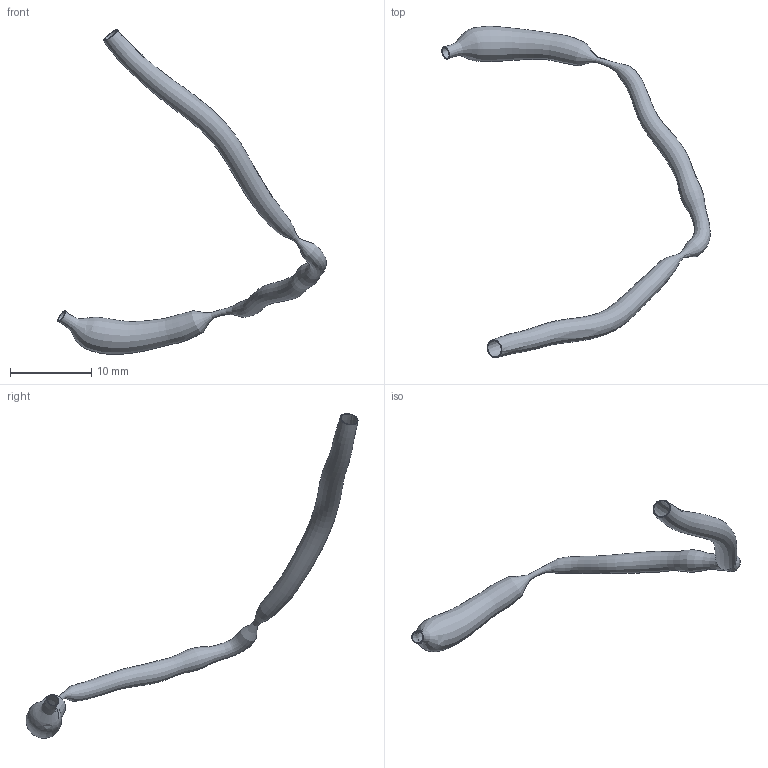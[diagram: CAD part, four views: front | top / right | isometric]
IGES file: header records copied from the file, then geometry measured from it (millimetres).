
Global section: file name: C:\Documents and Settings\Administrator\Desktop\FDA Bifurcation win\RawData_for_IGES\HRCA_Data\20000607.162451\IGES\20000607.162451.RCA.SEG.ED.igs; native system: Rhinoceros ( May 19 2006 ); preprocessor: Trout Lake IGES 012 May 19 2006; date: 100728.201414; units: centimetre
Bounding box: 33.12 x 40.98 x 40.09 mm (x, y, z)
Surface area: 1376.2 mm2 (no closed solid volume)
Topology: 0 solids, 0 shells, 4 faces, 12 edges, 8 vertices
Faces by surface type: bspline 4
